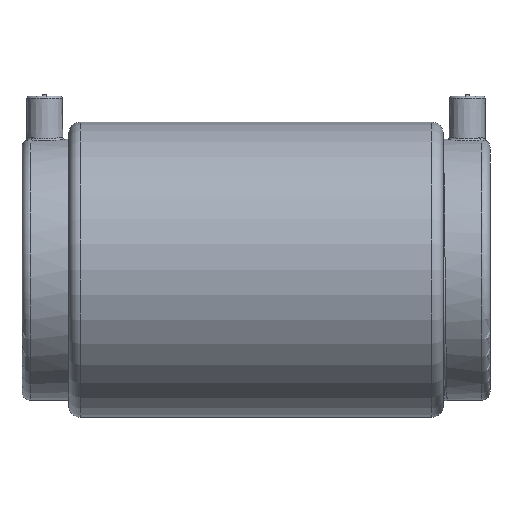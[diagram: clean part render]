
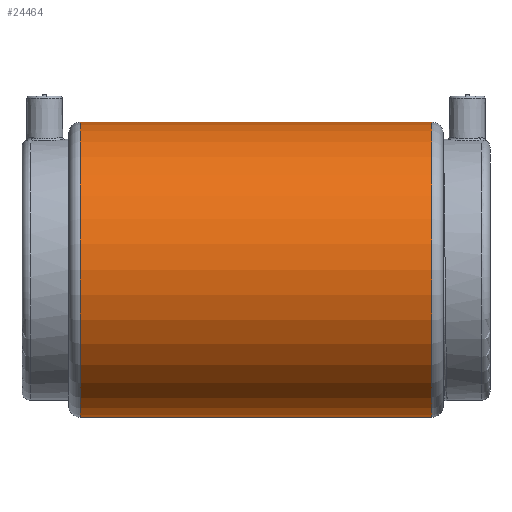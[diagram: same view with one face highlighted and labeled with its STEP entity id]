
A CAD part, front view. The second image highlights one B-rep face of the part: STEP entity #24464.
In plain terms, the highlighted cylindrical face has radius 52 mm (diameter 104 mm), a partial arc.
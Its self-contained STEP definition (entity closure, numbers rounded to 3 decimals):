
#79 = CIRCLE ( 'NONE', #23241, 52. ) ;
#80 = CIRCLE ( 'NONE', #23242, 52. ) ;
#731 = EDGE_CURVE ( 'NONE', #14643, #26919, #79, .T. ) ;
#732 = EDGE_CURVE ( 'NONE', #26932, #14640, #80, .T. ) ;
#2452 = CARTESIAN_POINT ( 'NONE',  ( 62.031, 0., 52. ) ) ;
#2465 = CARTESIAN_POINT ( 'NONE',  ( -62.031, 0., -52. ) ) ;
#3152 = AXIS2_PLACEMENT_3D ( 'NONE', #19395, #19396, #19393 ) ;
#6551 = EDGE_CURVE ( 'NONE', #14643, #26932, #16525, .T. ) ;
#6552 = EDGE_CURVE ( 'NONE', #26919, #14640, #16534, .T. ) ;
#7303 = CARTESIAN_POINT ( 'NONE',  ( 62.031, 0., 0. ) ) ;
#7304 = DIRECTION ( 'NONE',  ( -1., 0., 0. ) ) ;
#7305 = DIRECTION ( 'NONE',  ( 0., 0., 1. ) ) ;
#7306 = CARTESIAN_POINT ( 'NONE',  ( -62.031, 0., 0. ) ) ;
#7307 = DIRECTION ( 'NONE',  ( -1., 0., 0. ) ) ;
#7308 = DIRECTION ( 'NONE',  ( 0., 0., 1. ) ) ;
#14640 = VERTEX_POINT ( 'NONE', #21359 ) ;
#14643 = VERTEX_POINT ( 'NONE', #21405 ) ;
#16213 = FACE_OUTER_BOUND ( 'NONE', #22755, .T. ) ;
#16215 = CYLINDRICAL_SURFACE ( 'NONE', #3152, 52. ) ;
#16525 = LINE ( 'NONE', #20991, #16535 ) ;
#16534 = LINE ( 'NONE', #20995, #16538 ) ;
#16535 = VECTOR ( 'NONE', #20987, 1000. ) ;
#16538 = VECTOR ( 'NONE', #20996, 1000. ) ;
#19393 = DIRECTION ( 'NONE',  ( 0., 0., 1. ) ) ;
#19395 = CARTESIAN_POINT ( 'NONE',  ( -105.752, 0., 0. ) ) ;
#19396 = DIRECTION ( 'NONE',  ( -1., 0., 0. ) ) ;
#20987 = DIRECTION ( 'NONE',  ( -1., 0., 0. ) ) ;
#20991 = CARTESIAN_POINT ( 'NONE',  ( -105.752, 0., -52. ) ) ;
#20995 = CARTESIAN_POINT ( 'NONE',  ( -105.752, 0., 52. ) ) ;
#20996 = DIRECTION ( 'NONE',  ( -1., 0., 0. ) ) ;
#21359 = CARTESIAN_POINT ( 'NONE',  ( -62.031, 0., 52. ) ) ;
#21405 = CARTESIAN_POINT ( 'NONE',  ( 62.031, 0., -52. ) ) ;
#22755 = EDGE_LOOP ( 'NONE', ( #27185, #27176, #27187, #27175 ) ) ;
#23241 = AXIS2_PLACEMENT_3D ( 'NONE', #7303, #7304, #7305 ) ;
#23242 = AXIS2_PLACEMENT_3D ( 'NONE', #7306, #7307, #7308 ) ;
#24464 = ADVANCED_FACE ( 'NONE', ( #16213 ), #16215, .T. ) ;
#26919 = VERTEX_POINT ( 'NONE', #2452 ) ;
#26932 = VERTEX_POINT ( 'NONE', #2465 ) ;
#27175 = ORIENTED_EDGE ( 'NONE', *, *, #732, .F. ) ;
#27176 = ORIENTED_EDGE ( 'NONE', *, *, #731, .T. ) ;
#27185 = ORIENTED_EDGE ( 'NONE', *, *, #6551, .F. ) ;
#27187 = ORIENTED_EDGE ( 'NONE', *, *, #6552, .T. ) ;
